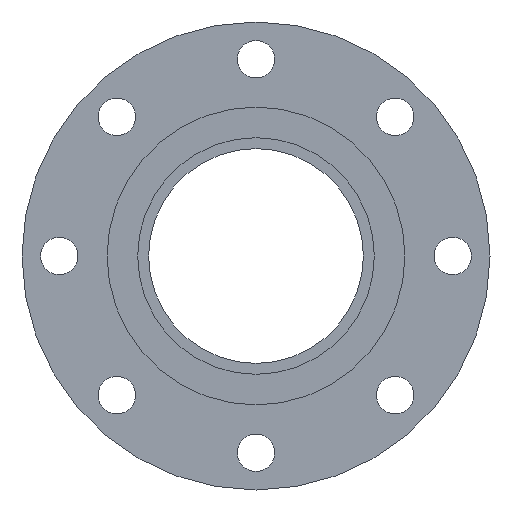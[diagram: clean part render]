
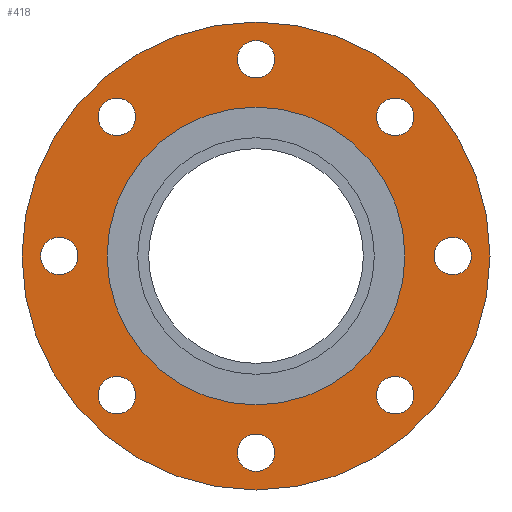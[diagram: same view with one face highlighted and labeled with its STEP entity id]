
A CAD part, left-side view. The second image highlights one B-rep face of the part: STEP entity #418.
In plain terms, the highlighted planar face has unit normal (-1, 0, 0).
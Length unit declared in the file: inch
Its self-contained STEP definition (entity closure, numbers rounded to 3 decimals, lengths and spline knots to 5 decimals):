
#14=FACE_BOUND('',#72,.T.);
#15=FACE_BOUND('',#73,.T.);
#16=FACE_BOUND('',#74,.T.);
#17=FACE_BOUND('',#75,.T.);
#18=FACE_BOUND('',#76,.T.);
#19=FACE_BOUND('',#77,.T.);
#20=FACE_BOUND('',#78,.T.);
#21=FACE_BOUND('',#79,.T.);
#22=FACE_BOUND('',#80,.T.);
#36=PLANE('',#478);
#51=FACE_OUTER_BOUND('',#71,.T.);
#71=EDGE_LOOP('',(#304,#305));
#72=EDGE_LOOP('',(#306));
#73=EDGE_LOOP('',(#307));
#74=EDGE_LOOP('',(#308));
#75=EDGE_LOOP('',(#309));
#76=EDGE_LOOP('',(#310));
#77=EDGE_LOOP('',(#311));
#78=EDGE_LOOP('',(#312));
#79=EDGE_LOOP('',(#313));
#80=EDGE_LOOP('',(#314,#315));
#133=CIRCLE('',#451,0.44);
#135=CIRCLE('',#454,0.44);
#137=CIRCLE('',#457,0.44);
#139=CIRCLE('',#460,0.44);
#141=CIRCLE('',#463,0.44);
#143=CIRCLE('',#466,0.44);
#145=CIRCLE('',#469,0.44);
#147=CIRCLE('',#472,0.44);
#148=CIRCLE('',#474,5.5);
#149=CIRCLE('',#475,5.5);
#152=CIRCLE('',#479,3.5);
#153=CIRCLE('',#480,3.5);
#173=VERTEX_POINT('',#649);
#175=VERTEX_POINT('',#655);
#177=VERTEX_POINT('',#661);
#179=VERTEX_POINT('',#667);
#181=VERTEX_POINT('',#673);
#183=VERTEX_POINT('',#679);
#185=VERTEX_POINT('',#685);
#187=VERTEX_POINT('',#691);
#188=VERTEX_POINT('',#695);
#189=VERTEX_POINT('',#696);
#192=VERTEX_POINT('',#705);
#193=VERTEX_POINT('',#706);
#214=EDGE_CURVE('',#173,#173,#133,.T.);
#217=EDGE_CURVE('',#175,#175,#135,.T.);
#220=EDGE_CURVE('',#177,#177,#137,.T.);
#223=EDGE_CURVE('',#179,#179,#139,.T.);
#226=EDGE_CURVE('',#181,#181,#141,.T.);
#229=EDGE_CURVE('',#183,#183,#143,.T.);
#232=EDGE_CURVE('',#185,#185,#145,.T.);
#235=EDGE_CURVE('',#187,#187,#147,.T.);
#236=EDGE_CURVE('',#188,#189,#148,.T.);
#237=EDGE_CURVE('',#189,#188,#149,.T.);
#241=EDGE_CURVE('',#192,#193,#152,.T.);
#242=EDGE_CURVE('',#193,#192,#153,.T.);
#304=ORIENTED_EDGE('',*,*,#236,.T.);
#305=ORIENTED_EDGE('',*,*,#237,.T.);
#306=ORIENTED_EDGE('',*,*,#214,.T.);
#307=ORIENTED_EDGE('',*,*,#217,.T.);
#308=ORIENTED_EDGE('',*,*,#220,.T.);
#309=ORIENTED_EDGE('',*,*,#223,.T.);
#310=ORIENTED_EDGE('',*,*,#226,.T.);
#311=ORIENTED_EDGE('',*,*,#229,.T.);
#312=ORIENTED_EDGE('',*,*,#232,.T.);
#313=ORIENTED_EDGE('',*,*,#235,.T.);
#314=ORIENTED_EDGE('',*,*,#241,.F.);
#315=ORIENTED_EDGE('',*,*,#242,.F.);
#418=ADVANCED_FACE('',(#51,#14,#15,#16,#17,#18,#19,#20,#21,#22),#36,.T.);
#451=AXIS2_PLACEMENT_3D('',#651,#516,#517);
#454=AXIS2_PLACEMENT_3D('',#657,#523,#524);
#457=AXIS2_PLACEMENT_3D('',#663,#530,#531);
#460=AXIS2_PLACEMENT_3D('',#669,#537,#538);
#463=AXIS2_PLACEMENT_3D('',#675,#544,#545);
#466=AXIS2_PLACEMENT_3D('',#681,#551,#552);
#469=AXIS2_PLACEMENT_3D('',#687,#558,#559);
#472=AXIS2_PLACEMENT_3D('',#693,#565,#566);
#474=AXIS2_PLACEMENT_3D('',#697,#569,#570);
#475=AXIS2_PLACEMENT_3D('',#698,#571,#572);
#478=AXIS2_PLACEMENT_3D('',#704,#578,#579);
#479=AXIS2_PLACEMENT_3D('',#707,#580,#581);
#480=AXIS2_PLACEMENT_3D('',#708,#582,#583);
#516=DIRECTION('center_axis',(1.,0.,0.));
#517=DIRECTION('ref_axis',(0.,-0.707,0.707));
#523=DIRECTION('center_axis',(1.,0.,0.));
#524=DIRECTION('ref_axis',(0.,-1.,0.));
#530=DIRECTION('center_axis',(1.,0.,0.));
#531=DIRECTION('ref_axis',(0.,-0.707,-0.707));
#537=DIRECTION('center_axis',(1.,0.,0.));
#538=DIRECTION('ref_axis',(0.,0.,-1.));
#544=DIRECTION('center_axis',(1.,0.,0.));
#545=DIRECTION('ref_axis',(0.,0.707,-0.707));
#551=DIRECTION('center_axis',(1.,0.,0.));
#552=DIRECTION('ref_axis',(0.,1.,0.));
#558=DIRECTION('center_axis',(1.,0.,0.));
#559=DIRECTION('ref_axis',(0.,0.707,0.707));
#565=DIRECTION('center_axis',(1.,0.,0.));
#566=DIRECTION('ref_axis',(0.,0.,1.));
#569=DIRECTION('center_axis',(-1.,0.,0.));
#570=DIRECTION('ref_axis',(0.,0.,1.));
#571=DIRECTION('center_axis',(-1.,0.,0.));
#572=DIRECTION('ref_axis',(0.,0.,1.));
#578=DIRECTION('center_axis',(-1.,0.,0.));
#579=DIRECTION('ref_axis',(0.,0.,1.));
#580=DIRECTION('center_axis',(-1.,0.,0.));
#581=DIRECTION('ref_axis',(0.,0.,1.));
#582=DIRECTION('center_axis',(-1.,0.,0.));
#583=DIRECTION('ref_axis',(0.,0.,1.));
#649=CARTESIAN_POINT('',(-1.38,3.5815,-3.5815));
#651=CARTESIAN_POINT('Origin',(-1.38,3.27037,-3.27037));
#655=CARTESIAN_POINT('',(-1.38,5.065,0.));
#657=CARTESIAN_POINT('Origin',(-1.38,4.625,0.));
#661=CARTESIAN_POINT('',(-1.38,3.5815,3.5815));
#663=CARTESIAN_POINT('Origin',(-1.38,3.27037,3.27037));
#667=CARTESIAN_POINT('',(-1.38,0.,5.065));
#669=CARTESIAN_POINT('Origin',(-1.38,0.,4.625));
#673=CARTESIAN_POINT('',(-1.38,-3.5815,3.5815));
#675=CARTESIAN_POINT('Origin',(-1.38,-3.27037,3.27037));
#679=CARTESIAN_POINT('',(-1.38,-5.065,0.));
#681=CARTESIAN_POINT('Origin',(-1.38,-4.625,0.));
#685=CARTESIAN_POINT('',(-1.38,-3.5815,-3.5815));
#687=CARTESIAN_POINT('Origin',(-1.38,-3.27037,-3.27037));
#691=CARTESIAN_POINT('',(-1.38,0.,-5.065));
#693=CARTESIAN_POINT('Origin',(-1.38,0.,-4.625));
#695=CARTESIAN_POINT('',(-1.38,0.,5.5));
#696=CARTESIAN_POINT('',(-1.38,0.,-5.5));
#697=CARTESIAN_POINT('Origin',(-1.38,0.,0.));
#698=CARTESIAN_POINT('Origin',(-1.38,0.,0.));
#704=CARTESIAN_POINT('Origin',(-1.38,0.,4.5));
#705=CARTESIAN_POINT('',(-1.38,0.,3.5));
#706=CARTESIAN_POINT('',(-1.38,0.,-3.5));
#707=CARTESIAN_POINT('Origin',(-1.38,0.,0.));
#708=CARTESIAN_POINT('Origin',(-1.38,0.,0.));
